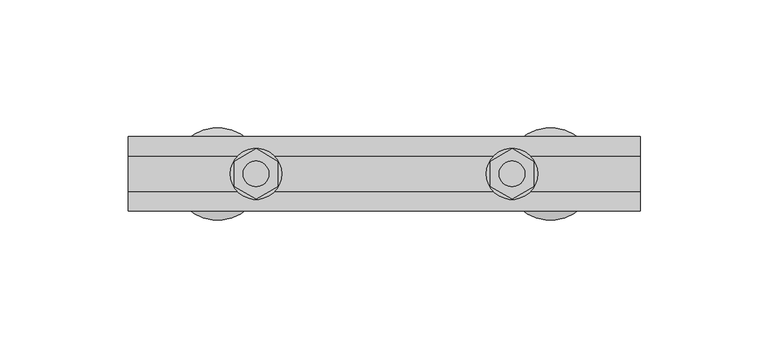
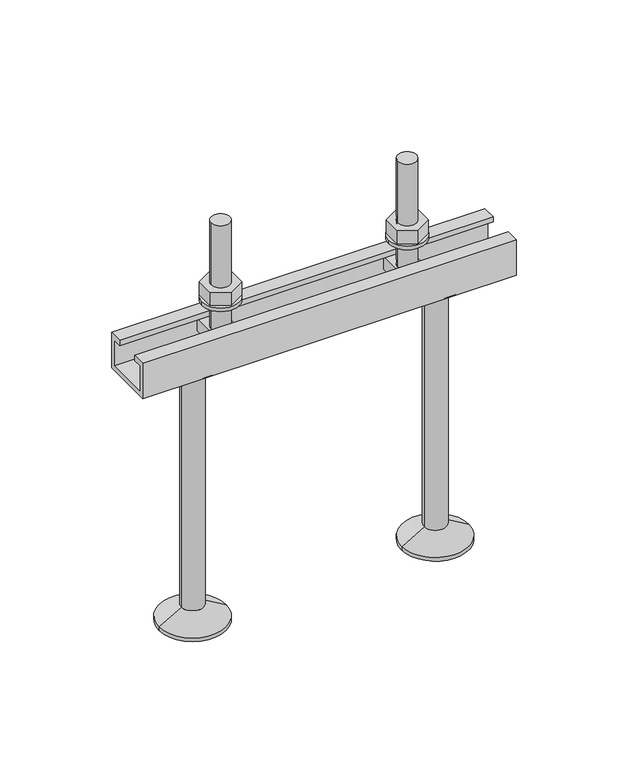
"""IFC4 building model written with IfcOpenShell, lengths in millimetres: fastener geometry, JXA(-PC) JORDAHL® toothed channels : JXA(-PC) L=200 mm."""

from ifc_helpers import new_model, si_unit, point, frame, frame_2d, origin, place, context, project, spatial, polyline, circle_curve, trimmed, segment, composite_curve, outline, extrude, source, transform, mapped, element, save
from ifc_brep_helpers import plane_surface, cylinder_surface, revolved_surface, advanced_brep


def fastener_c0e64843(model_context):
    return source(origin(), model_context, "Body", "SolidModel", [
        extrude(outline(composite_curve([segment(trimmed(circle_curve(frame_2d((150.0, 0.0)), 10.0), [point((140.0, 0.0))], [point((160.0, 0.0))], False, "CARTESIAN"), True, "CONTINUOUS"), segment(trimmed(circle_curve(frame_2d((150.0, 0.0)), 10.0), [point((160.0, 0.0))], [point((140.0, 0.0))], False, "CARTESIAN"), True, "CONTINUOUS")], self_intersect=False), holes=[composite_curve([segment(trimmed(circle_curve(frame_2d((150.0, 0.0)), 5.5), [point((144.5, 0.0))], [point((155.5, 0.0))], True, "CARTESIAN"), True, "CONTINUOUS"), segment(trimmed(circle_curve(frame_2d((150.0, 0.0)), 5.5), [point((155.5, 0.0))], [point((144.5, 0.0))], True, "CARTESIAN"), True, "CONTINUOUS")], self_intersect=False)]), frame((0.0, 0.0, 10.0), z_axis=(0.0, 0.0, 1.0), x_axis=(1.0, 0.0, 0.0)), (0.0, 0.0, 1.0), 2.0),
        extrude(outline(polyline([(150.0, 9.8149546), (158.5, 4.9074773), (158.5, -4.9074773), (150.0, -9.8149546), (141.5, -4.9074773), (141.5, 4.9074773), (150.0, 9.8149546)]), holes=[composite_curve([segment(trimmed(circle_curve(frame_2d((150.0, 0.0)), 5.0), [point((145.0, 0.0))], [point((155.0, 0.0))], True, "CARTESIAN"), True, "CONTINUOUS"), segment(trimmed(circle_curve(frame_2d((150.0, 0.0)), 5.0), [point((155.0, 0.0))], [point((145.0, 0.0))], True, "CARTESIAN"), True, "CONTINUOUS")], self_intersect=False)]), frame((0.0, 0.0, 12.0), z_axis=(0.0, 0.0, 1.0), x_axis=(1.0, 0.0, 0.0)), (0.0, 0.0, 1.0), 8.0),
        advanced_brep(
        [(156.5, 10.5, -5.0), (156.5, -10.5, -5.0), (156.5, -10.5, -12.0), (156.5, 10.5, -12.0), (143.5, 10.5, -5.0), (143.5, 10.5, -12.0), (143.5, -10.5, -12.0), (143.5, -10.5, -5.0), (155.0, 0.0, -5.0), (145.0, 0.0, -5.0), (145.0, 0.0, 55.0), (155.0, 0.0, 55.0)],
        [
            (0, 1),
            (1, 2),
            (2, 3),
            (3, 0),
            (4, 5),
            (5, 6),
            (6, 7),
            (7, 4),
            (0, 4),
            (7, 1),
            (8, 9, circle_curve(frame((150.0, 0.0, -5.0), z_axis=(0.0, 0.0, -1.0), x_axis=(1.0, 0.0, 0.0)), 5.0)),
            (9, 8, circle_curve(frame((150.0, 0.0, -5.0), z_axis=(0.0, 0.0, -1.0), x_axis=(1.0, 0.0, 0.0)), 5.0)),
            (6, 2),
            (5, 3),
            (10, 11, circle_curve(frame((150.0, 0.0, 55.0), z_axis=(0.0, 0.0, 1.0), x_axis=(1.0, 0.0, 0.0)), 5.0)),
            (11, 10, circle_curve(frame((150.0, 0.0, 55.0), z_axis=(0.0, 0.0, 1.0), x_axis=(1.0, 0.0, 0.0)), 5.0)),
            (10, 9),
            (8, 11),
        ],
        [
            plane_surface(frame((156.5, -10.5, -5.0), z_axis=(1.0, 0.0, 0.0), x_axis=(0.0, -1.0, 0.0))),
            plane_surface(frame((143.5, -10.5, -5.0), z_axis=(-1.0, 0.0, 0.0), x_axis=(0.0, 1.0, 0.0))),
            plane_surface(frame((156.5, 10.5, -5.0), z_axis=(0.0, 0.0, 1.0), x_axis=(-1.0, 0.0, 0.0))),
            plane_surface(frame((156.5, -10.5, -5.0), z_axis=(0.0, -1.0, 0.0), x_axis=(-1.0, 0.0, 0.0))),
            plane_surface(frame((156.5, -10.5, -12.0), z_axis=(0.0, 0.0, -1.0), x_axis=(-1.0, 0.0, 0.0))),
            plane_surface(frame((156.5, 10.5, -12.0), z_axis=(0.0, 1.0, 0.0), x_axis=(-1.0, 0.0, 0.0))),
            plane_surface(frame((155.0, 0.0, 55.0), z_axis=(0.0, 0.0, 1.0), x_axis=(0.0, 1.0, 0.0))),
            cylinder_surface(frame((150.0, 0.0, -5.0), z_axis=(0.0, 0.0, 1.0), x_axis=(1.0, 0.0, 0.0)), 5.0),
        ],
        [
            (0, [[1, 2, 3, 4]]),
            (1, [[5, 6, 7, 8]]),
            (2, [[-1, 9, -8, 10], [11, 12]]),
            (3, [[-2, -10, -7, 13]]),
            (4, [[-3, -13, -6, 14]]),
            (5, [[-4, -14, -5, -9]]),
            (6, [[15, 16]]),
            (7, [[-15, 17, -11, 18]]),
            (7, [[-16, -18, -12, -17]]),
        ],
    ),
        extrude(outline(composite_curve([segment(trimmed(circle_curve(frame_2d((50.0, 0.0)), 10.0), [point((40.0, 0.0))], [point((60.0, 0.0))], False, "CARTESIAN"), True, "CONTINUOUS"), segment(trimmed(circle_curve(frame_2d((50.0, 0.0)), 10.0), [point((60.0, 0.0))], [point((40.0, 0.0))], False, "CARTESIAN"), True, "CONTINUOUS")], self_intersect=False), holes=[composite_curve([segment(trimmed(circle_curve(frame_2d((50.0, 0.0)), 5.5), [point((44.5, 0.0))], [point((55.5, 0.0))], True, "CARTESIAN"), True, "CONTINUOUS"), segment(trimmed(circle_curve(frame_2d((50.0, 0.0)), 5.5), [point((55.5, 0.0))], [point((44.5, 0.0))], True, "CARTESIAN"), True, "CONTINUOUS")], self_intersect=False)]), frame((0.0, 0.0, 10.0), z_axis=(0.0, 0.0, 1.0), x_axis=(1.0, 0.0, 0.0)), (0.0, 0.0, 1.0), 2.0),
        extrude(outline(polyline([(50.0, 9.8149546), (58.5, 4.9074773), (58.5, -4.9074773), (50.0, -9.8149546), (41.5, -4.9074773), (41.5, 4.9074773), (50.0, 9.8149546)]), holes=[composite_curve([segment(trimmed(circle_curve(frame_2d((50.0, 0.0)), 5.0), [point((45.0, 0.0))], [point((55.0, 0.0))], True, "CARTESIAN"), True, "CONTINUOUS"), segment(trimmed(circle_curve(frame_2d((50.0, 0.0)), 5.0), [point((55.0, 0.0))], [point((45.0, 0.0))], True, "CARTESIAN"), True, "CONTINUOUS")], self_intersect=False)]), frame((0.0, 0.0, 12.0), z_axis=(0.0, 0.0, 1.0), x_axis=(1.0, 0.0, 0.0)), (0.0, 0.0, 1.0), 8.0),
        advanced_brep(
        [(56.5, 10.5, -5.0), (56.5, -10.5, -5.0), (56.5, -10.5, -12.0), (56.5, 10.5, -12.0), (43.5, 10.5, -5.0), (43.5, 10.5, -12.0), (43.5, -10.5, -12.0), (43.5, -10.5, -5.0), (55.0, 0.0, -5.0), (45.0, 0.0, -5.0), (45.0, 0.0, 55.0), (55.0, 0.0, 55.0)],
        [
            (0, 1),
            (1, 2),
            (2, 3),
            (3, 0),
            (4, 5),
            (5, 6),
            (6, 7),
            (7, 4),
            (0, 4),
            (7, 1),
            (8, 9, circle_curve(frame((50.0, 0.0, -5.0), z_axis=(0.0, 0.0, -1.0), x_axis=(1.0, 0.0, 0.0)), 5.0)),
            (9, 8, circle_curve(frame((50.0, 0.0, -5.0), z_axis=(0.0, 0.0, -1.0), x_axis=(1.0, 0.0, 0.0)), 5.0)),
            (6, 2),
            (5, 3),
            (10, 11, circle_curve(frame((50.0, 0.0, 55.0), z_axis=(0.0, 0.0, 1.0), x_axis=(1.0, 0.0, 0.0)), 5.0)),
            (11, 10, circle_curve(frame((50.0, 0.0, 55.0), z_axis=(0.0, 0.0, 1.0), x_axis=(1.0, 0.0, 0.0)), 5.0)),
            (10, 9),
            (8, 11),
        ],
        [
            plane_surface(frame((56.5, -10.5, -5.0), z_axis=(1.0, 0.0, 0.0), x_axis=(0.0, -1.0, 0.0))),
            plane_surface(frame((43.5, -10.5, -5.0), z_axis=(-1.0, 0.0, 0.0), x_axis=(0.0, 1.0, 0.0))),
            plane_surface(frame((56.5, 10.5, -5.0), z_axis=(0.0, 0.0, 1.0), x_axis=(-1.0, 0.0, 0.0))),
            plane_surface(frame((56.5, -10.5, -5.0), z_axis=(0.0, -1.0, 0.0), x_axis=(-1.0, 0.0, 0.0))),
            plane_surface(frame((56.5, -10.5, -12.0), z_axis=(0.0, 0.0, -1.0), x_axis=(-1.0, 0.0, 0.0))),
            plane_surface(frame((56.5, 10.5, -12.0), z_axis=(0.0, 1.0, 0.0), x_axis=(-1.0, 0.0, 0.0))),
            plane_surface(frame((55.0, 0.0, 55.0), z_axis=(0.0, 0.0, 1.0), x_axis=(0.0, 1.0, 0.0))),
            cylinder_surface(frame((50.0, 0.0, -5.0), z_axis=(0.0, 0.0, 1.0), x_axis=(1.0, 0.0, 0.0)), 5.0),
        ],
        [
            (0, [[1, 2, 3, 4]]),
            (1, [[5, 6, 7, 8]]),
            (2, [[-1, 9, -8, 10], [11, 12]]),
            (3, [[-2, -10, -7, 13]]),
            (4, [[-3, -13, -6, 14]]),
            (5, [[-4, -14, -5, -9]]),
            (6, [[15, 16]]),
            (7, [[-15, 17, -11, 18]]),
            (7, [[-16, -18, -12, -17]]),
        ],
    ),
        advanced_brep(
        [(165.0, 0.0, -20.0), (179.5, 0.0, -20.0), (150.5, 0.0, -20.0), (147.0, 0.0, -166.0), (183.0, 0.0, -166.0), (165.0, 0.0, -166.0), (147.0, 0.0, -164.0), (183.0, 0.0, -164.0), (159.0, 0.0, -157.0717968), (171.0, 0.0, -157.0717968), (159.0, 0.0, -22.5), (171.0, 0.0, -22.5)],
        [
            (0, 1),
            (1, 2, circle_curve(frame((165.0, 0.0, -20.0), z_axis=(0.0, 0.0, 1.0), x_axis=(1.0, 0.0, 0.0)), 14.5)),
            (2, 0),
            (2, 1, circle_curve(frame((165.0, 0.0, -20.0), z_axis=(0.0, 0.0, 1.0), x_axis=(1.0, 0.0, 0.0)), 14.5)),
            (3, 4, circle_curve(frame((165.0, 0.0, -166.0), z_axis=(0.0, 0.0, -1.0), x_axis=(1.0, 0.0, 0.0)), 18.0)),
            (4, 5),
            (5, 3),
            (4, 3, circle_curve(frame((165.0, 0.0, -166.0), z_axis=(0.0, 0.0, -1.0), x_axis=(1.0, 0.0, 0.0)), 18.0)),
            (6, 7, circle_curve(frame((165.0, 0.0, -164.0), z_axis=(0.0, 0.0, -1.0), x_axis=(1.0, 0.0, 0.0)), 18.0)),
            (7, 4),
            (3, 6),
            (7, 6, circle_curve(frame((165.0, 0.0, -164.0), z_axis=(0.0, 0.0, -1.0), x_axis=(1.0, 0.0, 0.0)), 18.0)),
            (8, 9, circle_curve(frame((165.0, 0.0, -157.0717968), z_axis=(0.0, 0.0, -1.0), x_axis=(1.0, 0.0, 0.0)), 6.0)),
            (9, 7),
            (6, 8),
            (9, 8, circle_curve(frame((165.0, 0.0, -157.0717968), z_axis=(0.0, 0.0, -1.0), x_axis=(1.0, 0.0, 0.0)), 6.0)),
            (10, 11, circle_curve(frame((165.0, 0.0, -22.5), z_axis=(0.0, 0.0, -1.0), x_axis=(1.0, 0.0, 0.0)), 6.0)),
            (11, 9),
            (8, 10),
            (11, 10, circle_curve(frame((165.0, 0.0, -22.5), z_axis=(0.0, 0.0, -1.0), x_axis=(1.0, 0.0, 0.0)), 6.0)),
            (1, 11),
            (10, 2),
        ],
        [
            plane_surface(frame((165.0, 0.0, -20.0), z_axis=(0.0, 0.0, 1.0), x_axis=(1.0, 0.0, 0.0))),
            plane_surface(frame((165.0, 0.0, -166.0), z_axis=(0.0, 0.0, -1.0), x_axis=(1.0, 0.0, 0.0))),
            cylinder_surface(frame((165.0, 0.0, 2214.3150031), z_axis=(0.0, 0.0, 1.0), x_axis=(1.0, 0.0, 0.0)), 18.0),
            revolved_surface(polyline([(183.0, 0.0, -164.0), (171.0, 0.0, -157.0717968)]), (165.0, 0.0, 2214.3150031), (0.0, 0.0, 1.0)),
            cylinder_surface(frame((165.0, 0.0, 2214.3150031), z_axis=(0.0, 0.0, 1.0), x_axis=(1.0, 0.0, 0.0)), 6.0),
            revolved_surface(polyline([(171.0, 0.0, -22.5), (179.5, 0.0, -20.0)]), (165.0, 0.0, 2214.3150031), (0.0, 0.0, 1.0)),
        ],
        [
            (0, [[1, 2, 3]]),
            (0, [[-3, 4, -1]]),
            (1, [[5, 6, 7]]),
            (1, [[8, -7, -6]]),
            (2, [[9, 10, -5, 11]]),
            (2, [[12, -11, -8, -10]]),
            (3, [[13, 14, -9, 15]]),
            (3, [[16, -15, -12, -14]]),
            (4, [[17, 18, -13, 19]]),
            (4, [[20, -19, -16, -18]]),
            (5, [[-2, 21, -17, 22]]),
            (5, [[-4, -22, -20, -21]]),
        ],
    ),
        advanced_brep(
        [(35.0, 0.0, -20.0), (49.5, 0.0, -20.0), (20.5, 0.0, -20.0), (17.0, 0.0, -166.0), (53.0, 0.0, -166.0), (35.0, 0.0, -166.0), (17.0, 0.0, -164.0), (53.0, 0.0, -164.0), (29.0, 0.0, -157.0717968), (41.0, 0.0, -157.0717968), (29.0, 0.0, -22.5), (41.0, 0.0, -22.5)],
        [
            (0, 1),
            (1, 2, circle_curve(frame((35.0, 0.0, -20.0), z_axis=(0.0, 0.0, 1.0), x_axis=(1.0, 0.0, 0.0)), 14.5)),
            (2, 0),
            (2, 1, circle_curve(frame((35.0, 0.0, -20.0), z_axis=(0.0, 0.0, 1.0), x_axis=(1.0, 0.0, 0.0)), 14.5)),
            (3, 4, circle_curve(frame((35.0, 0.0, -166.0), z_axis=(0.0, 0.0, -1.0), x_axis=(1.0, 0.0, 0.0)), 18.0)),
            (4, 5),
            (5, 3),
            (4, 3, circle_curve(frame((35.0, 0.0, -166.0), z_axis=(0.0, 0.0, -1.0), x_axis=(1.0, 0.0, 0.0)), 18.0)),
            (6, 7, circle_curve(frame((35.0, 0.0, -164.0), z_axis=(0.0, 0.0, -1.0), x_axis=(1.0, 0.0, 0.0)), 18.0)),
            (7, 4),
            (3, 6),
            (7, 6, circle_curve(frame((35.0, 0.0, -164.0), z_axis=(0.0, 0.0, -1.0), x_axis=(1.0, 0.0, 0.0)), 18.0)),
            (8, 9, circle_curve(frame((35.0, 0.0, -157.0717968), z_axis=(0.0, 0.0, -1.0), x_axis=(1.0, 0.0, 0.0)), 6.0)),
            (9, 7),
            (6, 8),
            (9, 8, circle_curve(frame((35.0, 0.0, -157.0717968), z_axis=(0.0, 0.0, -1.0), x_axis=(1.0, 0.0, 0.0)), 6.0)),
            (10, 11, circle_curve(frame((35.0, 0.0, -22.5), z_axis=(0.0, 0.0, -1.0), x_axis=(1.0, 0.0, 0.0)), 6.0)),
            (11, 9),
            (8, 10),
            (11, 10, circle_curve(frame((35.0, 0.0, -22.5), z_axis=(0.0, 0.0, -1.0), x_axis=(1.0, 0.0, 0.0)), 6.0)),
            (1, 11),
            (10, 2),
        ],
        [
            plane_surface(frame((35.0, 0.0, -20.0), z_axis=(0.0, 0.0, 1.0), x_axis=(1.0, 0.0, 0.0))),
            plane_surface(frame((35.0, 0.0, -166.0), z_axis=(0.0, 0.0, -1.0), x_axis=(1.0, 0.0, 0.0))),
            cylinder_surface(frame((35.0, 0.0, 2214.3150031), z_axis=(0.0, 0.0, 1.0), x_axis=(1.0, 0.0, 0.0)), 18.0),
            revolved_surface(polyline([(53.0, 0.0, -164.0), (41.0, 0.0, -157.0717968)]), (35.0, 0.0, 2214.3150031), (0.0, 0.0, 1.0)),
            cylinder_surface(frame((35.0, 0.0, 2214.3150031), z_axis=(0.0, 0.0, 1.0), x_axis=(1.0, 0.0, 0.0)), 6.0),
            revolved_surface(polyline([(41.0, 0.0, -22.5), (49.5, 0.0, -20.0)]), (35.0, 0.0, 2214.3150031), (0.0, 0.0, 1.0)),
        ],
        [
            (0, [[1, 2, 3]]),
            (0, [[-3, 4, -1]]),
            (1, [[5, 6, 7]]),
            (1, [[8, -7, -6]]),
            (2, [[9, 10, -5, 11]]),
            (2, [[12, -11, -8, -10]]),
            (3, [[13, 14, -9, 15]]),
            (3, [[16, -15, -12, -14]]),
            (4, [[17, 18, -13, 19]]),
            (4, [[20, -19, -16, -18]]),
            (5, [[-2, 21, -17, 22]]),
            (5, [[-4, -22, -20, -21]]),
        ],
    ),
        extrude(outline(polyline([(14.5, 0.0), (14.5, -20.0), (-14.5, -20.0), (-14.5, 0.0), (-7.0, 0.0), (-7.0, -3.0), (-12.0, -3.0), (-12.0, -17.5), (12.0, -17.5), (12.0, -3.0), (7.0, -3.0), (7.0, 0.0), (14.5, 0.0)])), frame((0.0, 0.0, 0.0), z_axis=(1.0, 0.0, 0.0), x_axis=(0.0, 1.0, 0.0)), (0.0, 0.0, 1.0), 200.0),
    ])


if __name__ == "__main__":
    model = new_model("IFC4")
    model_context = context("Model", 3, world=origin())
    ifc_project = project(units=[si_unit("LENGTHUNIT", "METRE", prefix="MILLI")], contexts=[model_context])
    site = spatial("IfcSite", under=ifc_project)
    building = spatial("IfcBuilding", under=site)
    placement = place(None, origin())
    fastener_shape = fastener_c0e64843(model_context)
    element("IfcFastener", 1, ObjectType="JXA(-PC) JORDAHL® toothed channels : JXA(-PC) L=200 mm", at=placement, inside=building, context=model_context, shape_type="MappedRepresentation", body=[
        mapped(fastener_shape, transform((0.0, 0.0, 0.0), x_axis=(1.0, 0.0, 0.0), y_axis=(0.0, 1.0, 0.0), z_axis=(0.0, 0.0, 1.0))),
    ])
    save(model, "model.ifc")
